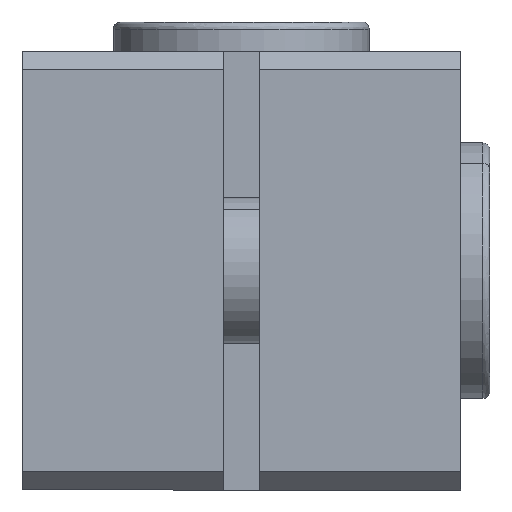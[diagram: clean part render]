
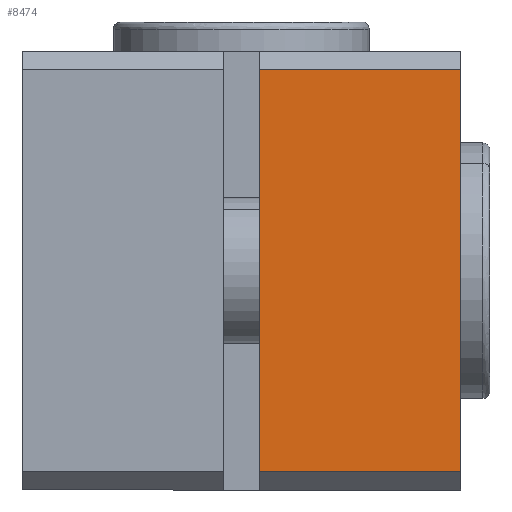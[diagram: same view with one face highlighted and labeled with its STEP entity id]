
A CAD part, left-side view. The second image highlights one B-rep face of the part: STEP entity #8474.
In plain terms, the highlighted planar face has unit normal (-1, 0, 0).
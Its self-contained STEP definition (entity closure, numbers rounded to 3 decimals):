
#154 = CARTESIAN_POINT ( 'NONE',  ( -26.778, 20.196, -5.5 ) ) ;
#214 = CARTESIAN_POINT ( 'NONE',  ( -26.778, 20.196, 5.5 ) ) ;
#623 = LINE ( 'NONE', #13204, #10057 ) ;
#1016 = AXIS2_PLACEMENT_3D ( 'NONE', #22564, #11963, #1367 ) ;
#1367 = DIRECTION ( 'NONE',  ( 0., 0., 1. ) ) ;
#1519 = VERTEX_POINT ( 'NONE', #5845 ) ;
#2001 = DIRECTION ( 'NONE',  ( 0., 1., 0. ) ) ;
#2002 = VERTEX_POINT ( 'NONE', #15312 ) ;
#2908 = VECTOR ( 'NONE', #10196, 1000. ) ;
#3465 = EDGE_CURVE ( 'NONE', #1519, #10436, #17557, .T. ) ;
#4147 = LINE ( 'NONE', #214, #13021 ) ;
#5269 = EDGE_LOOP ( 'NONE', ( #21531, #20138, #11226, #9986 ) ) ;
#5845 = CARTESIAN_POINT ( 'NONE',  ( -26.778, 22.946, -5.5 ) ) ;
#8058 = EDGE_CURVE ( 'NONE', #10172, #2002, #4147, .T. ) ;
#8474 = ADVANCED_FACE ( 'NONE', ( #9099 ), #15458, .T. ) ;
#9099 = FACE_OUTER_BOUND ( 'NONE', #5269, .T. ) ;
#9240 = EDGE_CURVE ( 'NONE', #10436, #10172, #21219, .T. ) ;
#9986 = ORIENTED_EDGE ( 'NONE', *, *, #3465, .T. ) ;
#10057 = VECTOR ( 'NONE', #14947, 1000. ) ;
#10172 = VERTEX_POINT ( 'NONE', #14902 ) ;
#10196 = DIRECTION ( 'NONE',  ( 0., 0., 1. ) ) ;
#10436 = VERTEX_POINT ( 'NONE', #17988 ) ;
#11226 = ORIENTED_EDGE ( 'NONE', *, *, #21071, .T. ) ;
#11963 = DIRECTION ( 'NONE',  ( -1., 0., 0. ) ) ;
#12553 = DIRECTION ( 'NONE',  ( 0., -1., 0. ) ) ;
#13021 = VECTOR ( 'NONE', #2001, 1000. ) ;
#13204 = CARTESIAN_POINT ( 'NONE',  ( -26.778, 22.946, 0. ) ) ;
#14902 = CARTESIAN_POINT ( 'NONE',  ( -26.778, 17.446, 5.5 ) ) ;
#14947 = DIRECTION ( 'NONE',  ( 0., 0., -1. ) ) ;
#15312 = CARTESIAN_POINT ( 'NONE',  ( -26.778, 22.946, 5.5 ) ) ;
#15458 = PLANE ( 'NONE',  #1016 ) ;
#17557 = LINE ( 'NONE', #154, #21712 ) ;
#17988 = CARTESIAN_POINT ( 'NONE',  ( -26.778, 17.446, -5.5 ) ) ;
#19018 = CARTESIAN_POINT ( 'NONE',  ( -26.778, 17.446, 0. ) ) ;
#20138 = ORIENTED_EDGE ( 'NONE', *, *, #8058, .T. ) ;
#21071 = EDGE_CURVE ( 'NONE', #2002, #1519, #623, .T. ) ;
#21219 = LINE ( 'NONE', #19018, #2908 ) ;
#21531 = ORIENTED_EDGE ( 'NONE', *, *, #9240, .T. ) ;
#21712 = VECTOR ( 'NONE', #12553, 1000. ) ;
#22564 = CARTESIAN_POINT ( 'NONE',  ( -26.778, 17.446, -5.5 ) ) ;
